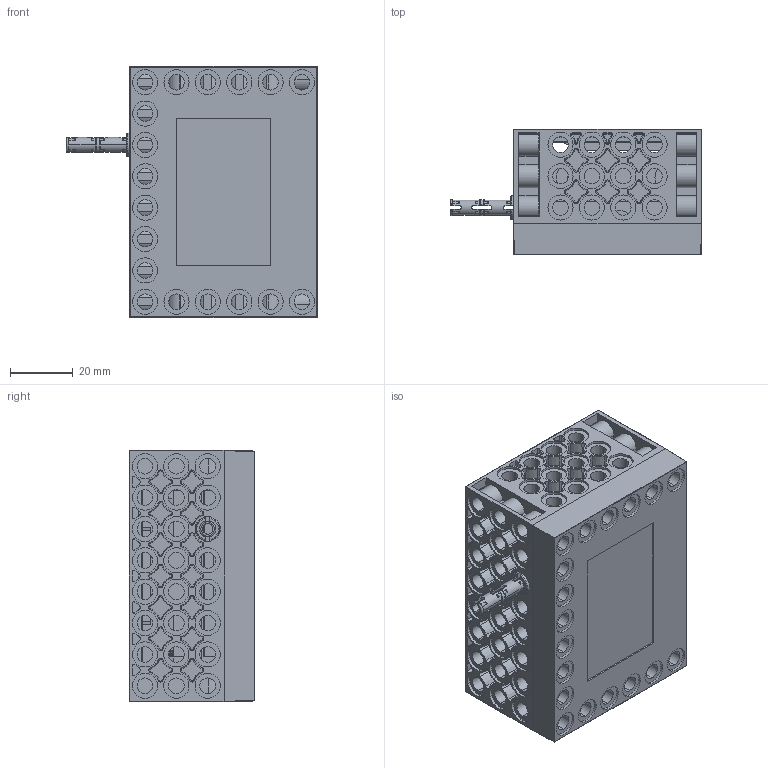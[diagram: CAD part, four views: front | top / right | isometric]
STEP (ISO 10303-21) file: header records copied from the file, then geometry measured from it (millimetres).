
FILE_DESCRIPTION((''),'2;1');
FILE_NAME('BABETA_ASM','2019-06-11T',('Administrator'),(''),'PRO/ENGINEER BY PARAMETRIC TECHNOLOGY CORPORATION, 2007450','PRO/ENGINEER BY PARAMETRIC TECHNOLOGY CORPORATION, 2007450','');
FILE_SCHEMA(('AUTOMOTIVE_DESIGN_CC2 { 1 2 10303 214 -1 1 5 2 }'));
Length unit declared in the file: millimetre
Products named in the file (29): BACA_1_27LAST_VERSION; BACA_2_25LAST_VERSION; BACA_ASM_2LAST_VERSION_ASM; BACA_3; SOLID1; SOLID2; SOLID3; SOLID4; SOLID5; SOLID6; SOLID7; SOLID8; SOLID9; SOLID10; SOLID11; SOLID12; SOLID13; SOLID14; SOLID15; SOLID16; SOLID17; SOLID18; SOLID26; BATTERY_HOLDER_WZY-148-1_ASM; BATTERY; BATTERY_HOLDER_WZY-148-1_WITH_C_ASM; BACA_ASSEMBLY_ASM_1LAST_VERSION_ASM; CP2X1; BABETA_ASM
Assembly tree (33 placements, depth 5):
  BABETA_ASM
    BACA_ASSEMBLY_ASM_1LAST_VERSION_ASM
      BACA_ASM_2LAST_VERSION_ASM
        BACA_1_27LAST_VERSION
        BACA_2_25LAST_VERSION
      BACA_3
      BATTERY_HOLDER_WZY-148-1_WITH_C_ASM
        BATTERY_HOLDER_WZY-148-1_ASM
          SOLID1
          SOLID2
          SOLID3
          SOLID4
          SOLID5
          SOLID6
          SOLID7
          SOLID8
          SOLID9
          SOLID10
          SOLID11
          SOLID12
          SOLID13
          SOLID14
          SOLID15
          SOLID16
          SOLID17
          SOLID18
          SOLID26
        BATTERY  x6
    CP2X1
Bounding box: 80.1 x 40 x 80 mm (x, y, z)
Volume: 66264.9 mm3; surface area: 88838.8 mm2
Topology: 16 solids, 16 shells, 1978 faces, 5469 edges, 3641 vertices
Faces by surface type: plane 822, cylinder 738, cone 253, bspline 91, torus 51, sphere 23
Entity records: 97821 total; most frequent: CARTESIAN_POINT 31290, ORIENTED_EDGE 10930, DIRECTION 10920, EDGE_CURVE 5465, PRESENTATION_STYLE_ASSIGNMENT 4684, STYLED_ITEM 4683, CURVE_STYLE 4674, AXIS2_PLACEMENT_3D 3996
